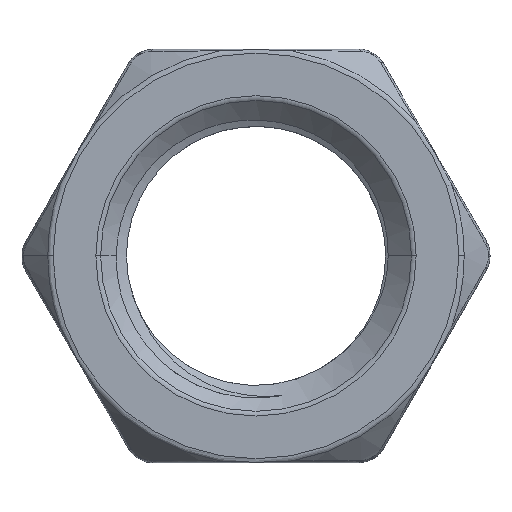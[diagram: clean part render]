
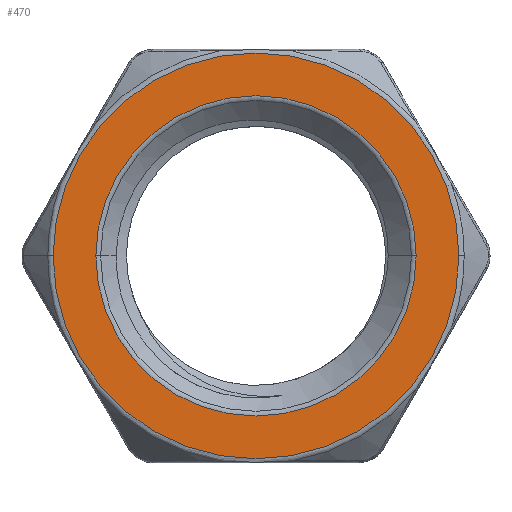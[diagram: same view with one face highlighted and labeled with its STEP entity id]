
A CAD part, top view. The second image highlights one B-rep face of the part: STEP entity #470.
In plain terms, the highlighted planar face has unit normal (0, 0, 1).
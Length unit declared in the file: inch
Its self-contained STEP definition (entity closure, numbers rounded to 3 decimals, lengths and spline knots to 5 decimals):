
#81 = DIRECTION ( 'NONE',  ( -1., 0., 0. ) ) ;
#197 = CARTESIAN_POINT ( 'NONE',  ( 0., 0., 0. ) ) ;
#305 = ORIENTED_EDGE ( 'NONE', *, *, #5761, .T. ) ;
#357 = CIRCLE ( 'NONE', #4650, 0.57498 ) ;
#456 = EDGE_LOOP ( 'NONE', ( #5598, #1562 ) ) ;
#470 = ADVANCED_FACE ( 'NONE', ( #2239, #5580 ), #5019, .F. ) ;
#578 = CARTESIAN_POINT ( 'NONE',  ( -0.72829, 0., 0. ) ) ;
#650 = AXIS2_PLACEMENT_3D ( 'NONE', #2269, #2752, #2299 ) ;
#722 = CIRCLE ( 'NONE', #5615, 0.72829 ) ;
#1049 = DIRECTION ( 'NONE',  ( 0., 0., 1. ) ) ;
#1167 = CARTESIAN_POINT ( 'NONE',  ( 0., 0., 0. ) ) ;
#1528 = DIRECTION ( 'NONE',  ( -1., 0., 0. ) ) ;
#1562 = ORIENTED_EDGE ( 'NONE', *, *, #4037, .T. ) ;
#1569 = EDGE_CURVE ( 'NONE', #5681, #3531, #2301, .T. ) ;
#2239 = FACE_OUTER_BOUND ( 'NONE', #456, .T. ) ;
#2269 = CARTESIAN_POINT ( 'NONE',  ( 0., 0.565, 0. ) ) ;
#2299 = DIRECTION ( 'NONE',  ( -1., 0., 0. ) ) ;
#2301 = CIRCLE ( 'NONE', #5532, 0.57498 ) ;
#2715 = CARTESIAN_POINT ( 'NONE',  ( 0.72829, 0., 0. ) ) ;
#2752 = DIRECTION ( 'NONE',  ( 0., 0., -1. ) ) ;
#2774 = CIRCLE ( 'NONE', #3068, 0.72829 ) ;
#2937 = CARTESIAN_POINT ( 'NONE',  ( 0., 0., 0. ) ) ;
#3032 = DIRECTION ( 'NONE',  ( -1., 0., 0. ) ) ;
#3068 = AXIS2_PLACEMENT_3D ( 'NONE', #2937, #3349, #1528 ) ;
#3144 = EDGE_CURVE ( 'NONE', #4799, #3879, #722, .T. ) ;
#3349 = DIRECTION ( 'NONE',  ( 0., 0., 1. ) ) ;
#3355 = DIRECTION ( 'NONE',  ( -1., 0., 0. ) ) ;
#3531 = VERTEX_POINT ( 'NONE', #4526 ) ;
#3879 = VERTEX_POINT ( 'NONE', #2715 ) ;
#3922 = DIRECTION ( 'NONE',  ( 0., 0., -1. ) ) ;
#3941 = ORIENTED_EDGE ( 'NONE', *, *, #1569, .T. ) ;
#3964 = EDGE_LOOP ( 'NONE', ( #305, #3941 ) ) ;
#4037 = EDGE_CURVE ( 'NONE', #3879, #4799, #2774, .T. ) ;
#4526 = CARTESIAN_POINT ( 'NONE',  ( -0.57498, 0., 0. ) ) ;
#4650 = AXIS2_PLACEMENT_3D ( 'NONE', #5708, #3922, #81 ) ;
#4799 = VERTEX_POINT ( 'NONE', #578 ) ;
#5019 = PLANE ( 'NONE',  #650 ) ;
#5532 = AXIS2_PLACEMENT_3D ( 'NONE', #197, #5795, #3355 ) ;
#5580 = FACE_BOUND ( 'NONE', #3964, .T. ) ;
#5598 = ORIENTED_EDGE ( 'NONE', *, *, #3144, .T. ) ;
#5615 = AXIS2_PLACEMENT_3D ( 'NONE', #1167, #1049, #3032 ) ;
#5681 = VERTEX_POINT ( 'NONE', #5877 ) ;
#5708 = CARTESIAN_POINT ( 'NONE',  ( 0., 0., 0. ) ) ;
#5761 = EDGE_CURVE ( 'NONE', #3531, #5681, #357, .T. ) ;
#5795 = DIRECTION ( 'NONE',  ( 0., 0., -1. ) ) ;
#5877 = CARTESIAN_POINT ( 'NONE',  ( 0.57498, 0., 0. ) ) ;
